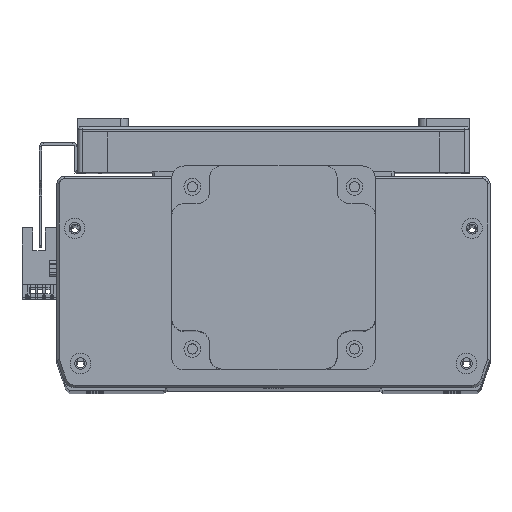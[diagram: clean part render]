
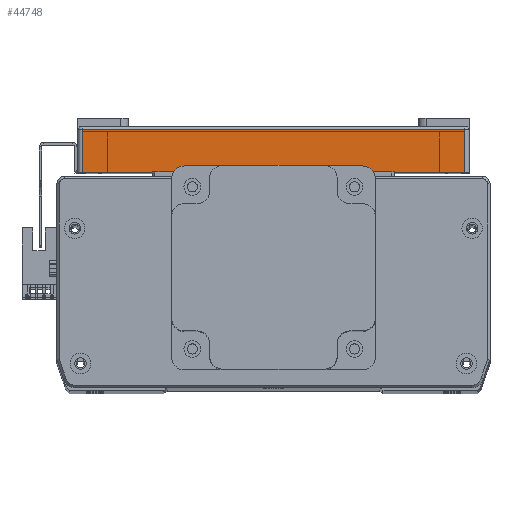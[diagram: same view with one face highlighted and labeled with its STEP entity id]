
A CAD part, top view. The second image highlights one B-rep face of the part: STEP entity #44748.
In plain terms, the highlighted planar face has unit normal (0, 0, 1) as drawn and (-1, 0, 0) by its records, which use the part's own axes.
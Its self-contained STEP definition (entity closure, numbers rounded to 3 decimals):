
#6162 = ORIENTED_EDGE ( 'NONE', *, *, #37983, .T. ) ;
#6220 = ORIENTED_EDGE ( 'NONE', *, *, #37973, .T. ) ;
#6224 = ORIENTED_EDGE ( 'NONE', *, *, #37880, .T. ) ;
#6282 = ORIENTED_EDGE ( 'NONE', *, *, #37953, .T. ) ;
#17392 = VERTEX_POINT ( 'NONE', #32506 ) ;
#17417 = VERTEX_POINT ( 'NONE', #32429 ) ;
#21459 = VERTEX_POINT ( 'NONE', #32743 ) ;
#21544 = VERTEX_POINT ( 'NONE', #32706 ) ;
#25844 = AXIS2_PLACEMENT_3D ( 'NONE', #30460, #30438, #30475 ) ;
#28789 = CARTESIAN_POINT ( 'NONE',  ( -115., 0., -77. ) ) ;
#28815 = DIRECTION ( 'NONE',  ( 0., 0., 1. ) ) ;
#28992 = DIRECTION ( 'NONE',  ( 0., 0., -1. ) ) ;
#28996 = CARTESIAN_POINT ( 'NONE',  ( -115., 17., -75. ) ) ;
#29023 = DIRECTION ( 'NONE',  ( 0., -1., 0. ) ) ;
#29024 = CARTESIAN_POINT ( 'NONE',  ( -115., 18., 75. ) ) ;
#29047 = CARTESIAN_POINT ( 'NONE',  ( -115., 18., -75. ) ) ;
#29057 = DIRECTION ( 'NONE',  ( 0., 1., 0. ) ) ;
#30438 = DIRECTION ( 'NONE',  ( 1., 0., 0. ) ) ;
#30459 = PLANE ( 'NONE',  #25844 ) ;
#30460 = CARTESIAN_POINT ( 'NONE',  ( -115., 18., -77. ) ) ;
#30475 = DIRECTION ( 'NONE',  ( 0., 0., -1. ) ) ;
#32048 = EDGE_LOOP ( 'NONE', ( #6220, #6282, #6162, #6224 ) ) ;
#32429 = CARTESIAN_POINT ( 'NONE',  ( -115., 17., 75. ) ) ;
#32506 = CARTESIAN_POINT ( 'NONE',  ( -115., 17., -75. ) ) ;
#32706 = CARTESIAN_POINT ( 'NONE',  ( -115., 0., -75. ) ) ;
#32743 = CARTESIAN_POINT ( 'NONE',  ( -115., 0., 75. ) ) ;
#37880 = EDGE_CURVE ( 'NONE', #21544, #21459, #50768, .T. ) ;
#37953 = EDGE_CURVE ( 'NONE', #17417, #17392, #51010, .T. ) ;
#37973 = EDGE_CURVE ( 'NONE', #21459, #17417, #50956, .T. ) ;
#37983 = EDGE_CURVE ( 'NONE', #17392, #21544, #51083, .T. ) ;
#44748 = ADVANCED_FACE ( 'NONE', ( #47844 ), #30459, .F. ) ;
#47844 = FACE_OUTER_BOUND ( 'NONE', #32048, .T. ) ;
#50768 = LINE ( 'NONE', #28789, #50800 ) ;
#50800 = VECTOR ( 'NONE', #28815, 1000. ) ;
#50956 = LINE ( 'NONE', #29024, #50961 ) ;
#50961 = VECTOR ( 'NONE', #29057, 1000. ) ;
#51010 = LINE ( 'NONE', #28996, #51044 ) ;
#51044 = VECTOR ( 'NONE', #28992, 1000. ) ;
#51083 = LINE ( 'NONE', #29047, #51128 ) ;
#51128 = VECTOR ( 'NONE', #29023, 1000. ) ;
